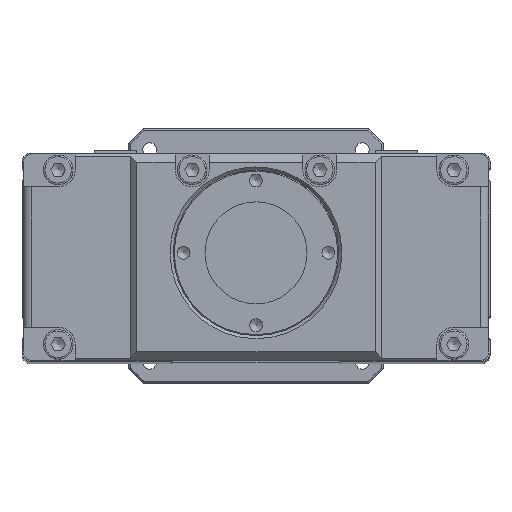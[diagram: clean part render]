
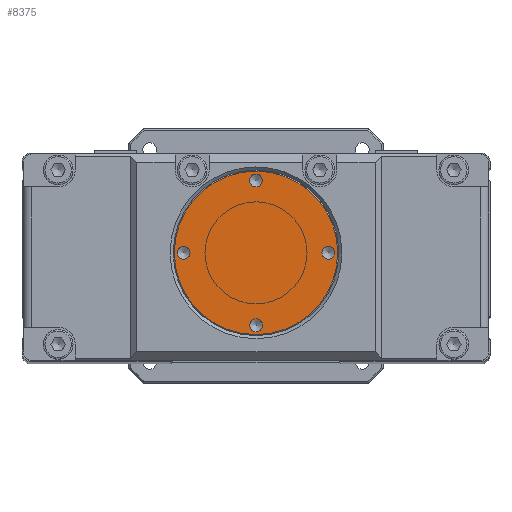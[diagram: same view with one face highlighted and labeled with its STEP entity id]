
A CAD part, top view. The second image highlights one B-rep face of the part: STEP entity #8375.
In plain terms, the highlighted planar face has unit normal (0, 0, 1).
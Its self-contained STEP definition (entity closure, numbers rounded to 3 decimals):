
#8184=CARTESIAN_POINT('',(0.491,20.2,1037.5));
#8185=VERTEX_POINT('',#8184);
#8186=CARTESIAN_POINT('',(0.5,1.,1037.5));
#8187=DIRECTION('',(0.0,0.0,-1.));
#8188=DIRECTION('',(0.,-1.,0.0));
#8189=AXIS2_PLACEMENT_3D('',#8186,#8187,#8188);
#8190=CIRCLE('',#8189,19.2);
#8191=EDGE_CURVE('',#8185,#8185,#8190,.T.);
#8229=CARTESIAN_POINT('',(17.501,-0.492,1037.5));
#8230=VERTEX_POINT('',#8229);
#8231=CARTESIAN_POINT('',(17.5,1.008,1037.5));
#8232=DIRECTION('',(0.0,0.0,-1.));
#8233=DIRECTION('',(0.,-1.,0.0));
#8234=AXIS2_PLACEMENT_3D('',#8231,#8232,#8233);
#8235=CIRCLE('',#8234,1.5);
#8236=EDGE_CURVE('',#8230,#8230,#8235,.T.);
#8266=CARTESIAN_POINT('',(0.509,-17.5,1037.5));
#8267=VERTEX_POINT('',#8266);
#8268=CARTESIAN_POINT('',(0.508,-16.,1037.5));
#8269=DIRECTION('',(0.0,0.0,-1.));
#8270=DIRECTION('',(0.,-1.,0.0));
#8271=AXIS2_PLACEMENT_3D('',#8268,#8269,#8270);
#8272=CIRCLE('',#8271,1.5);
#8273=EDGE_CURVE('',#8267,#8267,#8272,.T.);
#8303=CARTESIAN_POINT('',(-16.499,-0.508,1037.5));
#8304=VERTEX_POINT('',#8303);
#8305=CARTESIAN_POINT('',(-16.5,0.992,1037.5));
#8306=DIRECTION('',(0.0,0.0,-1.));
#8307=DIRECTION('',(0.,-1.,0.0));
#8308=AXIS2_PLACEMENT_3D('',#8305,#8306,#8307);
#8309=CIRCLE('',#8308,1.5);
#8310=EDGE_CURVE('',#8304,#8304,#8309,.T.);
#8340=CARTESIAN_POINT('',(0.493,16.5,1037.5));
#8341=VERTEX_POINT('',#8340);
#8342=CARTESIAN_POINT('',(0.492,18.,1037.5));
#8343=DIRECTION('',(0.0,0.0,-1.));
#8344=DIRECTION('',(0.,-1.,0.0));
#8345=AXIS2_PLACEMENT_3D('',#8342,#8343,#8344);
#8346=CIRCLE('',#8345,1.5);
#8347=EDGE_CURVE('',#8341,#8341,#8346,.T.);
#8355=CARTESIAN_POINT('',(0.495,11.,1037.5));
#8356=DIRECTION('',(0.0,0.0,1.0));
#8357=DIRECTION('',(1.0,0.0,0.0));
#8358=AXIS2_PLACEMENT_3D('',#8355,#8356,#8357);
#8359=PLANE('',#8358);
#8360=ORIENTED_EDGE('',*,*,#8191,.F.);
#8361=EDGE_LOOP('',(#8360));
#8362=FACE_OUTER_BOUND('',#8361,.T.);
#8363=ORIENTED_EDGE('',*,*,#8236,.T.);
#8364=EDGE_LOOP('',(#8363));
#8365=FACE_BOUND('',#8364,.T.);
#8366=ORIENTED_EDGE('',*,*,#8273,.T.);
#8367=EDGE_LOOP('',(#8366));
#8368=FACE_BOUND('',#8367,.T.);
#8369=ORIENTED_EDGE('',*,*,#8310,.T.);
#8370=EDGE_LOOP('',(#8369));
#8371=FACE_BOUND('',#8370,.T.);
#8372=ORIENTED_EDGE('',*,*,#8347,.T.);
#8373=EDGE_LOOP('',(#8372));
#8374=FACE_BOUND('',#8373,.T.);
#8375=ADVANCED_FACE('',(#8362,#8365,#8368,#8371,#8374),#8359,.T.);
